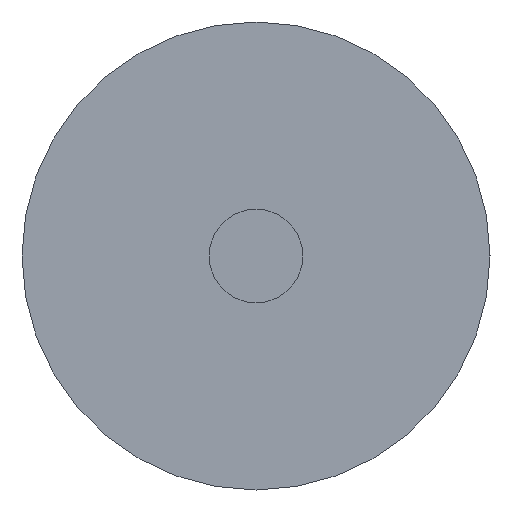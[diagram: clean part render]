
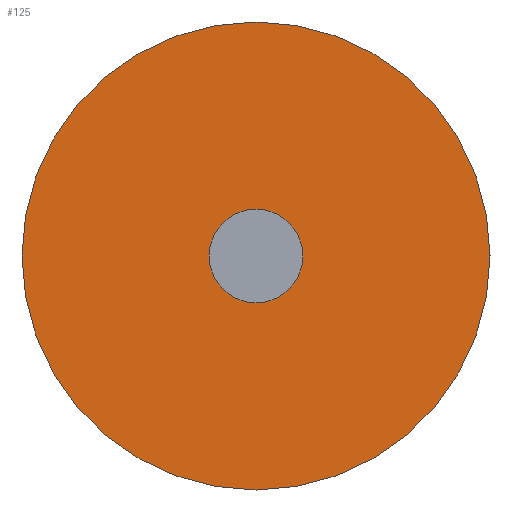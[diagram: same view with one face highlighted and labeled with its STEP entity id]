
A CAD part, left-side view. The second image highlights one B-rep face of the part: STEP entity #125.
In plain terms, the highlighted planar face has unit normal (-1, 0, 0).
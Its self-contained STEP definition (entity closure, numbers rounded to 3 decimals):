
#125=ADVANCED_FACE('',(#222,#224),#226,.T.);
#222=FACE_BOUND('',#223,.T.);
#223=EDGE_LOOP('',(#262));
#224=FACE_BOUND('',#225,.T.);
#225=EDGE_LOOP('',(#263));
#226=PLANE('',#227);
#227=AXIS2_PLACEMENT_3D('',#228,#229,#230);
#228=CARTESIAN_POINT('',(-30.,0.,0.));
#229=DIRECTION('',(-1.,0.,0.));
#230=DIRECTION('',(0.,1.,0.));
#262=ORIENTED_EDGE('',*,*,#274,.F.);
#263=ORIENTED_EDGE('',*,*,#275,.T.);
#274=EDGE_CURVE('',#291,#291,#292,.T.);
#275=EDGE_CURVE('',#293,#293,#294,.T.);
#291=VERTEX_POINT('',#332);
#292=CIRCLE('',#333,25.);
#293=VERTEX_POINT('',#337);
#294=CIRCLE('',#338,5.);
#332=CARTESIAN_POINT('',(-30.,25.,0.));
#333=AXIS2_PLACEMENT_3D('',#334,#335,#336);
#334=CARTESIAN_POINT('',(-30.,0.,0.));
#335=DIRECTION('',(1.,-0.,-0.));
#336=DIRECTION('',(0.,1.,0.));
#337=CARTESIAN_POINT('',(-30.,5.,0.));
#338=AXIS2_PLACEMENT_3D('',#339,#340,#341);
#339=CARTESIAN_POINT('',(-30.,0.,0.));
#340=DIRECTION('',(1.,-0.,-0.));
#341=DIRECTION('',(0.,1.,0.));
